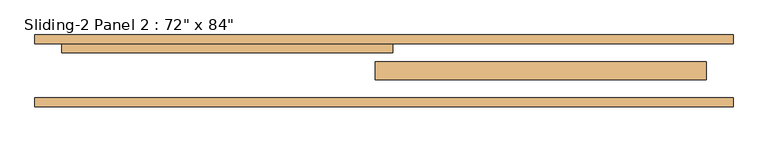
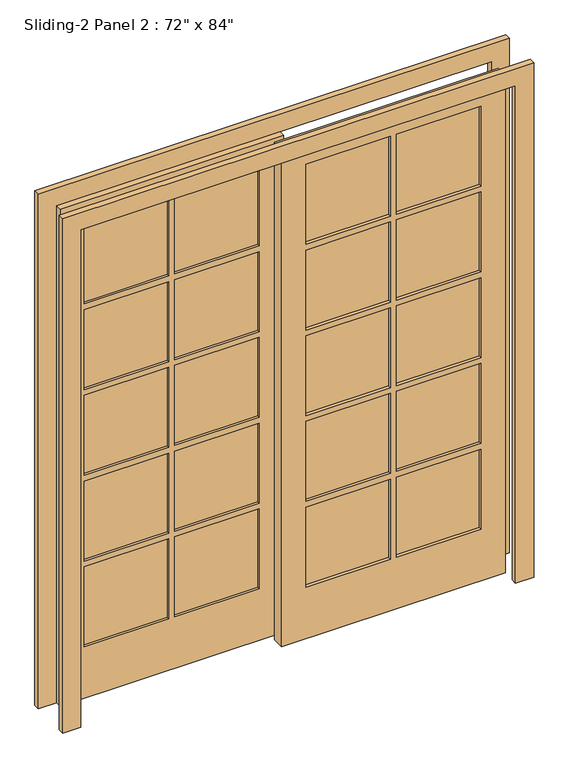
"""IFC4 building model written with IfcOpenShell, lengths in millimetres: door geometry."""

from ifc_helpers import new_model, si_unit, frame, origin, place, context, project, spatial, polyline, outline, extrude, source, transform, mapped, element, save


def door_f6c94119(model_context):
    return source(origin(), model_context, "Body", "SweptSolid", [
        extrude(outline(polyline([(457.2, 139.4293121), (812.8, 139.4293121), (812.8, 114.8534681), (457.2, 114.8534681), (457.2, 139.4293121)])), frame((0.0, 0.0, 1752.6), z_axis=(0.0, 0.0, 1.0), x_axis=(1.0, 0.0, 0.0)), (0.0, 0.0, 1.0), 355.6),
        extrude(outline(polyline([(76.2, 139.4293121), (431.8, 139.4293121), (431.8, 114.8534681), (76.2, 114.8534681), (76.2, 139.4293121)])), frame((0.0, 0.0, 1752.6), z_axis=(0.0, 0.0, 1.0), x_axis=(1.0, 0.0, 0.0)), (0.0, 0.0, 1.0), 355.6),
        extrude(outline(polyline([(457.2, 139.4293121), (812.8, 139.4293121), (812.8, 114.8534681), (457.2, 114.8534681), (457.2, 139.4293121)])), frame((0.0, 0.0, 1371.6), z_axis=(0.0, 0.0, 1.0), x_axis=(1.0, 0.0, 0.0)), (0.0, 0.0, 1.0), 355.6),
        extrude(outline(polyline([(76.2, 139.4293121), (431.8, 139.4293121), (431.8, 114.8534681), (76.2, 114.8534681), (76.2, 139.4293121)])), frame((0.0, 0.0, 1371.6), z_axis=(0.0, 0.0, 1.0), x_axis=(1.0, 0.0, 0.0)), (0.0, 0.0, 1.0), 355.6),
        extrude(outline(polyline([(457.2, 139.4293121), (812.8, 139.4293121), (812.8, 114.8534681), (457.2, 114.8534681), (457.2, 139.4293121)])), frame((0.0, 0.0, 990.6), z_axis=(0.0, 0.0, 1.0), x_axis=(1.0, 0.0, 0.0)), (0.0, 0.0, 1.0), 355.6),
        extrude(outline(polyline([(76.2, 139.4293121), (431.8, 139.4293121), (431.8, 114.8534681), (76.2, 114.8534681), (76.2, 139.4293121)])), frame((0.0, 0.0, 990.6), z_axis=(0.0, 0.0, 1.0), x_axis=(1.0, 0.0, 0.0)), (0.0, 0.0, 1.0), 355.6),
        extrude(outline(polyline([(457.2, 139.4293121), (812.8, 139.4293121), (812.8, 114.8534681), (457.2, 114.8534681), (457.2, 139.4293121)])), frame((0.0, 0.0, 609.6), z_axis=(0.0, 0.0, 1.0), x_axis=(1.0, 0.0, 0.0)), (0.0, 0.0, 1.0), 355.6),
        extrude(outline(polyline([(76.2, 139.4293121), (431.8, 139.4293121), (431.8, 114.8534681), (76.2, 114.8534681), (76.2, 139.4293121)])), frame((0.0, 0.0, 609.6), z_axis=(0.0, 0.0, 1.0), x_axis=(1.0, 0.0, 0.0)), (0.0, 0.0, 1.0), 355.6),
        extrude(outline(polyline([(457.2, 139.4293121), (812.8, 139.4293121), (812.8, 114.8534681), (457.2, 114.8534681), (457.2, 139.4293121)])), frame((0.0, 0.0, 228.6), z_axis=(0.0, 0.0, 1.0), x_axis=(1.0, 0.0, 0.0)), (0.0, 0.0, 1.0), 355.6),
        extrude(outline(polyline([(76.2, 139.4293121), (431.8, 139.4293121), (431.8, 114.8534681), (76.2, 114.8534681), (76.2, 139.4293121)])), frame((0.0, 0.0, 228.6), z_axis=(0.0, 0.0, 1.0), x_axis=(1.0, 0.0, 0.0)), (0.0, 0.0, 1.0), 355.6),
        extrude(outline(polyline([(-457.2, 188.2711448), (-812.8, 188.2711448), (-812.8, 190.5), (-457.2, 190.5), (-457.2, 188.2711448)])), frame((0.0, 0.0, 1752.6), z_axis=(0.0, 0.0, 1.0), x_axis=(1.0, 0.0, 0.0)), (0.0, 0.0, 1.0), 355.6),
        extrude(outline(polyline([(-76.2, 188.2711448), (-431.8, 188.2711448), (-431.8, 190.5), (-76.2, 190.5), (-76.2, 188.2711448)])), frame((0.0, 0.0, 1752.6), z_axis=(0.0, 0.0, 1.0), x_axis=(1.0, 0.0, 0.0)), (0.0, 0.0, 1.0), 355.6),
        extrude(outline(polyline([(-76.2, 188.2711448), (-431.8, 188.2711448), (-431.8, 190.5), (-76.2, 190.5), (-76.2, 188.2711448)])), frame((0.0, 0.0, 1371.6), z_axis=(0.0, 0.0, 1.0), x_axis=(1.0, 0.0, 0.0)), (0.0, 0.0, 1.0), 355.6),
        extrude(outline(polyline([(-457.2, 188.2711448), (-812.8, 188.2711448), (-812.8, 190.5), (-457.2, 190.5), (-457.2, 188.2711448)])), frame((0.0, 0.0, 1371.6), z_axis=(0.0, 0.0, 1.0), x_axis=(1.0, 0.0, 0.0)), (0.0, 0.0, 1.0), 355.6),
        extrude(outline(polyline([(-76.2, 188.2711448), (-431.8, 188.2711448), (-431.8, 190.5), (-76.2, 190.5), (-76.2, 188.2711448)])), frame((0.0, 0.0, 990.6), z_axis=(0.0, 0.0, 1.0), x_axis=(1.0, 0.0, 0.0)), (0.0, 0.0, 1.0), 355.6),
        extrude(outline(polyline([(-457.2, 188.2711448), (-812.8, 188.2711448), (-812.8, 190.5), (-457.2, 190.5), (-457.2, 188.2711448)])), frame((0.0, 0.0, 990.6), z_axis=(0.0, 0.0, 1.0), x_axis=(1.0, 0.0, 0.0)), (0.0, 0.0, 1.0), 355.6),
        extrude(outline(polyline([(-76.2, 188.2711448), (-431.8, 188.2711448), (-431.8, 190.5), (-76.2, 190.5), (-76.2, 188.2711448)])), frame((0.0, 0.0, 609.6), z_axis=(0.0, 0.0, 1.0), x_axis=(1.0, 0.0, 0.0)), (0.0, 0.0, 1.0), 355.6),
        extrude(outline(polyline([(-457.2, 188.2711448), (-812.8, 188.2711448), (-812.8, 190.5), (-457.2, 190.5), (-457.2, 188.2711448)])), frame((0.0, 0.0, 609.6), z_axis=(0.0, 0.0, 1.0), x_axis=(1.0, 0.0, 0.0)), (0.0, 0.0, 1.0), 355.6),
        extrude(outline(polyline([(-457.2, 188.2711448), (-812.8, 188.2711448), (-812.8, 190.5), (-457.2, 190.5), (-457.2, 188.2711448)])), frame((0.0, 0.0, 228.6), z_axis=(0.0, 0.0, 1.0), x_axis=(1.0, 0.0, 0.0)), (0.0, 0.0, 1.0), 355.6),
        extrude(outline(polyline([(-76.2, 188.2711448), (-431.8, 188.2711448), (-431.8, 190.5), (-76.2, 190.5), (-76.2, 188.2711448)])), frame((0.0, 0.0, 228.6), z_axis=(0.0, 0.0, 1.0), x_axis=(1.0, 0.0, 0.0)), (0.0, 0.0, 1.0), 355.6),
        extrude(outline(polyline([(2209.8, -914.4), (0.0, -914.4), (0.0, 25.4), (2209.8, 25.4), (2209.8, -914.4)]), holes=[polyline([(228.6, -457.2), (228.6, -812.8), (584.2, -812.8), (584.2, -457.2), (228.6, -457.2)]), polyline([(1752.6, -812.8), (2108.2, -812.8), (2108.2, -457.2), (1752.6, -457.2), (1752.6, -812.8)]), polyline([(2108.2, -431.8), (2108.2, -76.2), (1752.6, -76.2), (1752.6, -431.8), (2108.2, -431.8)]), polyline([(584.2, -76.2), (228.6, -76.2), (228.6, -431.8), (584.2, -431.8), (584.2, -76.2)]), polyline([(1727.2, -457.2), (1371.6, -457.2), (1371.6, -812.8), (1727.2, -812.8), (1727.2, -457.2)]), polyline([(1346.2, -457.2), (990.6, -457.2), (990.6, -812.8), (1346.2, -812.8), (1346.2, -457.2)]), polyline([(965.2, -457.2), (609.6, -457.2), (609.6, -812.8), (965.2, -812.8), (965.2, -457.2)]), polyline([(1727.2, -76.2), (1371.6, -76.2), (1371.6, -431.8), (1727.2, -431.8), (1727.2, -76.2)]), polyline([(990.6, -431.8), (1346.2, -431.8), (1346.2, -76.2), (990.6, -76.2), (990.6, -431.8)]), polyline([(609.6, -431.8), (965.2, -431.8), (965.2, -76.2), (609.6, -76.2), (609.6, -431.8)])]), frame((0.0, 177.8, 0.0), z_axis=(0.0, 1.0, 0.0), x_axis=(0.0, 0.0, 1.0)), (0.0, 0.0, 1.0), 25.4),
        extrude(outline(polyline([(2209.8, -25.4), (0.0, -25.4), (0.0, 914.4), (2209.8, 914.4), (2209.8, -25.4)]), holes=[polyline([(2108.2, 457.2), (2108.2, 812.8), (1752.6, 812.8), (1752.6, 457.2), (2108.2, 457.2)]), polyline([(584.2, 812.8), (228.6, 812.8), (228.6, 457.2), (584.2, 457.2), (584.2, 812.8)]), polyline([(228.6, 431.8), (228.6, 76.2), (584.2, 76.2), (584.2, 431.8), (228.6, 431.8)]), polyline([(1752.6, 76.2), (2108.2, 76.2), (2108.2, 431.8), (1752.6, 431.8), (1752.6, 76.2)]), polyline([(1727.2, 457.2), (1727.2, 812.8), (1371.6, 812.8), (1371.6, 457.2), (1727.2, 457.2)]), polyline([(1346.2, 457.2), (1346.2, 812.8), (990.6, 812.8), (990.6, 457.2), (1346.2, 457.2)]), polyline([(990.6, 431.8), (990.6, 76.2), (1346.2, 76.2), (1346.2, 431.8), (990.6, 431.8)]), polyline([(965.2, 431.8), (609.6, 431.8), (609.6, 76.2), (965.2, 76.2), (965.2, 431.8)]), polyline([(609.6, 457.2), (965.2, 457.2), (965.2, 812.8), (609.6, 812.8), (609.6, 457.2)]), polyline([(1371.6, 76.2), (1727.2, 76.2), (1727.2, 431.8), (1371.6, 431.8), (1371.6, 76.2)])]), frame((0.0, 101.6, 0.0), z_axis=(0.0, 1.0, 0.0), x_axis=(0.0, 0.0, 1.0)), (0.0, 0.0, 1.0), 50.8),
        extrude(outline(polyline([(0.0, -990.6), (0.0, -914.4), (2209.8, -914.4), (2209.8, 914.4), (0.0, 914.4), (0.0, 990.6), (2286.0, 990.6), (2286.0, -990.6), (0.0, -990.6)])), frame((0.0, 25.4, 0.0), z_axis=(0.0, 1.0, 0.0), x_axis=(0.0, 0.0, 1.0)), (0.0, 0.0, 1.0), 25.4),
        extrude(outline(polyline([(0.0, 990.6), (2286.0, 990.6), (2286.0, -990.6), (0.0, -990.6), (0.0, -914.4), (2209.8, -914.4), (2209.8, 914.4), (0.0, 914.4), (0.0, 990.6)])), frame((0.0, 203.2, 0.0), z_axis=(0.0, 1.0, 0.0), x_axis=(0.0, 0.0, 1.0)), (0.0, 0.0, 1.0), 25.4),
    ])


if __name__ == "__main__":
    model = new_model("IFC4")
    model_context = context("Model", 3, world=origin())
    ifc_project = project(units=[si_unit("LENGTHUNIT", "METRE", prefix="MILLI")], contexts=[model_context])
    site = spatial("IfcSite", under=ifc_project)
    building = spatial("IfcBuilding", under=site)
    placement = place(None, origin())
    door_shape = door_f6c94119(model_context)
    element("IfcDoor", 1, ObjectType="Sliding-2 Panel 2 : 72\" x 84\"", at=placement, inside=building, context=model_context, shape_type="MappedRepresentation", body=[
        mapped(door_shape, transform((0.0, 0.0, 0.0), x_axis=(1.0, 0.0, 0.0), y_axis=(0.0, 1.0, 0.0), z_axis=(0.0, 0.0, 1.0))),
    ])
    save(model, "model.ifc")
